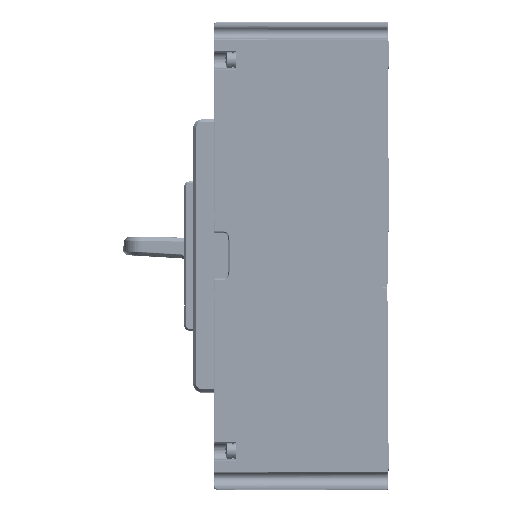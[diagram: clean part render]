
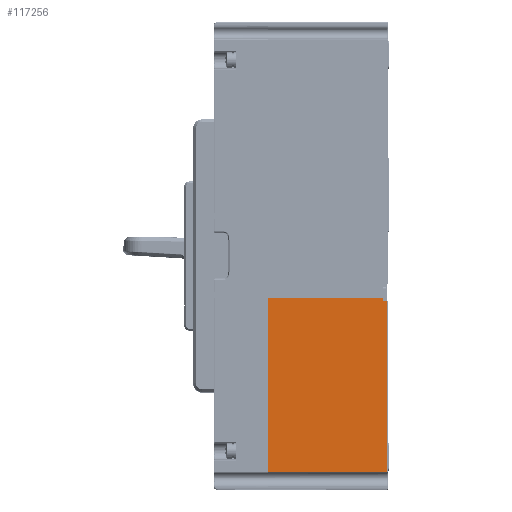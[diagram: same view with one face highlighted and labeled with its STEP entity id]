
A CAD part, top view. The second image highlights one B-rep face of the part: STEP entity #117256.
In plain terms, the highlighted planar face has unit normal (0, 0, 1) as drawn and (0, 0, -1) by its records, which use the part's own axes.
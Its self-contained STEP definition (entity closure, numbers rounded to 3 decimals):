
#7296=DIRECTION('',(1.,0.,0.));
#7297=VECTOR('',#7296,95.283);
#7298=CARTESIAN_POINT('',(23.5,20.8,-123.));
#7299=LINE('',#7298,#7297);
#39472=DIRECTION('',(0.,-1.,0.));
#39473=VECTOR('',#39472,65.2);
#39474=CARTESIAN_POINT('',(118.783,20.8,-123.));
#39475=LINE('',#39474,#39473);
#39480=DIRECTION('',(0.,-1.,0.));
#39481=VECTOR('',#39480,63.2);
#39482=CARTESIAN_POINT('',(23.5,20.8,-123.));
#39483=LINE('',#39482,#39481);
#39484=DIRECTION('',(1.,0.,0.));
#39485=VECTOR('',#39484,1.5);
#39486=CARTESIAN_POINT('',(23.5,-42.4,-123.));
#39487=LINE('',#39486,#39485);
#39488=DIRECTION('',(0.,-1.,0.));
#39489=VECTOR('',#39488,2.);
#39490=CARTESIAN_POINT('',(25.,-42.4,-123.));
#39491=LINE('',#39490,#39489);
#39496=DIRECTION('',(-1.,0.,0.));
#39497=VECTOR('',#39496,93.783);
#39498=CARTESIAN_POINT('',(118.783,-44.4,-123.));
#39499=LINE('',#39498,#39497);
#47985=CARTESIAN_POINT('',(118.783,-44.4,-123.));
#47986=CARTESIAN_POINT('',(25.,-44.4,-123.));
#47987=VERTEX_POINT('',#47985);
#47988=VERTEX_POINT('',#47986);
#47989=CARTESIAN_POINT('',(118.783,20.8,-123.));
#47990=VERTEX_POINT('',#47989);
#47991=CARTESIAN_POINT('',(23.5,20.8,-123.));
#47992=VERTEX_POINT('',#47991);
#47993=CARTESIAN_POINT('',(23.5,-42.4,-123.));
#47994=VERTEX_POINT('',#47993);
#47995=CARTESIAN_POINT('',(25.,-42.4,-123.));
#47996=VERTEX_POINT('',#47995);
#117241=CARTESIAN_POINT('',(0.,0.,-123.));
#117242=DIRECTION('',(0.,0.,1.));
#117243=DIRECTION('',(1.,0.,0.));
#117244=AXIS2_PLACEMENT_3D('',#117241,#117242,#117243);
#117245=PLANE('',#117244);
#117247=ORIENTED_EDGE('',*,*,#117246,.F.);
#117248=ORIENTED_EDGE('',*,*,#117233,.F.);
#117249=ORIENTED_EDGE('',*,*,#71025,.F.);
#117251=ORIENTED_EDGE('',*,*,#117250,.T.);
#117252=ORIENTED_EDGE('',*,*,#70827,.T.);
#117253=ORIENTED_EDGE('',*,*,#70814,.T.);
#117254=EDGE_LOOP('',(#117247,#117248,#117249,#117251,#117252,#117253));
#117255=FACE_OUTER_BOUND('',#117254,.F.);
#117256=ADVANCED_FACE('',(#117255),#117245,.F.);
#70814=EDGE_CURVE('',#47996,#47988,#39491,.T.);
#70827=EDGE_CURVE('',#47994,#47996,#39487,.T.);
#71025=EDGE_CURVE('',#47992,#47990,#7299,.T.);
#117233=EDGE_CURVE('',#47990,#47987,#39475,.T.);
#117246=EDGE_CURVE('',#47987,#47988,#39499,.T.);
#117250=EDGE_CURVE('',#47992,#47994,#39483,.T.);
